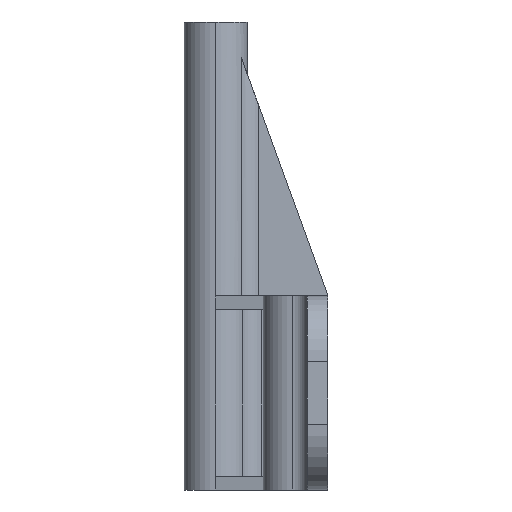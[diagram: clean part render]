
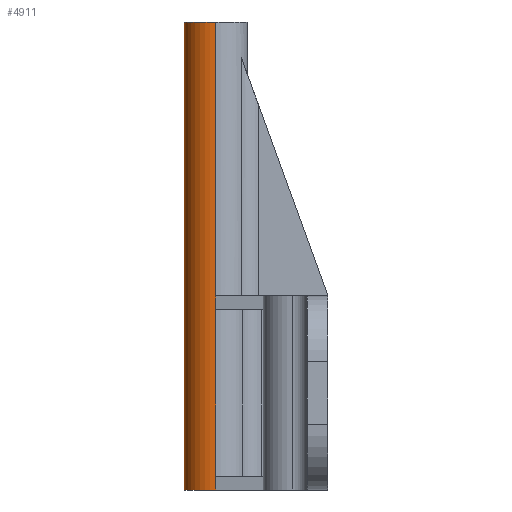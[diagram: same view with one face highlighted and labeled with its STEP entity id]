
A CAD part, left-side view. The second image highlights one B-rep face of the part: STEP entity #4911.
In plain terms, the highlighted cylindrical face has radius 7.366 mm (diameter 14.732 mm), a partial arc.
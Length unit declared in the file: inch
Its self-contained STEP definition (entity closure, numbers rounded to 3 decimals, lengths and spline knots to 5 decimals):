
#5 = LINE ( 'NONE', #4402, #4881 ) ;
#95 = DIRECTION ( 'NONE',  ( 0., 0., 1. ) ) ;
#137 = VERTEX_POINT ( 'NONE', #5668 ) ;
#142 = VERTEX_POINT ( 'NONE', #3291 ) ;
#219 = ORIENTED_EDGE ( 'NONE', *, *, #5769, .T. ) ;
#263 = EDGE_CURVE ( 'NONE', #3427, #3368, #926, .T. ) ;
#501 = DIRECTION ( 'NONE',  ( 0., 0., -1. ) ) ;
#583 = EDGE_CURVE ( 'NONE', #2844, #3368, #3069, .T. ) ;
#597 = AXIS2_PLACEMENT_3D ( 'NONE', #1650, #2600, #5434 ) ;
#660 = CARTESIAN_POINT ( 'NONE',  ( 0.29, 0.899, 1.64666 ) ) ;
#686 = LINE ( 'NONE', #3529, #4452 ) ;
#835 = EDGE_LOOP ( 'NONE', ( #5110, #1667, #5284, #219, #5764, #2184, #3469, #1028, #1737, #3310 ) ) ;
#922 = CARTESIAN_POINT ( 'NONE',  ( 0.29, 0.899, 1.77166 ) ) ;
#926 = LINE ( 'NONE', #660, #3568 ) ;
#1028 = ORIENTED_EDGE ( 'NONE', *, *, #3211, .F. ) ;
#1034 = CARTESIAN_POINT ( 'NONE',  ( -0.29, 0.899, 1.77166 ) ) ;
#1210 = EDGE_CURVE ( 'NONE', #2844, #5875, #1573, .T. ) ;
#1320 = EDGE_CURVE ( 'NONE', #5875, #142, #686, .T. ) ;
#1573 = CIRCLE ( 'NONE', #5310, 0.29 ) ;
#1620 = CARTESIAN_POINT ( 'NONE',  ( 0., 0.899, 4.27166 ) ) ;
#1640 = CARTESIAN_POINT ( 'NONE',  ( 0.29, 0.899, 1.64666 ) ) ;
#1646 = DIRECTION ( 'NONE',  ( 0., 0., 1. ) ) ;
#1650 = CARTESIAN_POINT ( 'NONE',  ( 0., 0.899, 1.77166 ) ) ;
#1656 = CARTESIAN_POINT ( 'NONE',  ( -0.29, 0.899, 4.27166 ) ) ;
#1661 = DIRECTION ( 'NONE',  ( 1., 0., 0. ) ) ;
#1667 = ORIENTED_EDGE ( 'NONE', *, *, #583, .T. ) ;
#1737 = ORIENTED_EDGE ( 'NONE', *, *, #1956, .T. ) ;
#1754 = AXIS2_PLACEMENT_3D ( 'NONE', #2936, #95, #3387 ) ;
#1956 = EDGE_CURVE ( 'NONE', #2237, #142, #5105, .T. ) ;
#2135 = LINE ( 'NONE', #4686, #5785 ) ;
#2184 = ORIENTED_EDGE ( 'NONE', *, *, #4480, .T. ) ;
#2218 = VECTOR ( 'NONE', #4793, 39.37008 ) ;
#2237 = VERTEX_POINT ( 'NONE', #5234 ) ;
#2492 = CARTESIAN_POINT ( 'NONE',  ( -0.29, 0.899, 0.125 ) ) ;
#2599 = VECTOR ( 'NONE', #2800, 39.37008 ) ;
#2600 = DIRECTION ( 'NONE',  ( 0., 0., -1. ) ) ;
#2800 = DIRECTION ( 'NONE',  ( 0., 0., 1. ) ) ;
#2801 = DIRECTION ( 'NONE',  ( 0., 0., -1. ) ) ;
#2808 = CARTESIAN_POINT ( 'NONE',  ( -0.29, 0.899, 1.64666 ) ) ;
#2844 = VERTEX_POINT ( 'NONE', #5369 ) ;
#2936 = CARTESIAN_POINT ( 'NONE',  ( 0., 0.899, 0. ) ) ;
#3069 = LINE ( 'NONE', #922, #3349 ) ;
#3211 = EDGE_CURVE ( 'NONE', #2237, #137, #4525, .T. ) ;
#3291 = CARTESIAN_POINT ( 'NONE',  ( -0.29, 0.899, 1.77166 ) ) ;
#3310 = ORIENTED_EDGE ( 'NONE', *, *, #1320, .F. ) ;
#3349 = VECTOR ( 'NONE', #5158, 39.37008 ) ;
#3368 = VERTEX_POINT ( 'NONE', #5868 ) ;
#3387 = DIRECTION ( 'NONE',  ( 1., 0., 0. ) ) ;
#3427 = VERTEX_POINT ( 'NONE', #1640 ) ;
#3469 = ORIENTED_EDGE ( 'NONE', *, *, #3857, .F. ) ;
#3485 = VERTEX_POINT ( 'NONE', #5963 ) ;
#3500 = DIRECTION ( 'NONE',  ( 0., 0., -1. ) ) ;
#3515 = VERTEX_POINT ( 'NONE', #4093 ) ;
#3529 = CARTESIAN_POINT ( 'NONE',  ( -0.29, 0.899, 1.77166 ) ) ;
#3568 = VECTOR ( 'NONE', #3951, 39.37008 ) ;
#3616 = FACE_OUTER_BOUND ( 'NONE', #835, .T. ) ;
#3857 = EDGE_CURVE ( 'NONE', #137, #3515, #4901, .T. ) ;
#3951 = DIRECTION ( 'NONE',  ( 0., 0., 1. ) ) ;
#4093 = CARTESIAN_POINT ( 'NONE',  ( -0.29, 0.899, 0. ) ) ;
#4402 = CARTESIAN_POINT ( 'NONE',  ( 0.29, 0.899, 1.77166 ) ) ;
#4452 = VECTOR ( 'NONE', #3500, 39.37008 ) ;
#4480 = EDGE_CURVE ( 'NONE', #5294, #3515, #4815, .T. ) ;
#4525 = LINE ( 'NONE', #1034, #5488 ) ;
#4686 = CARTESIAN_POINT ( 'NONE',  ( 0.29, 0.899, 0.125 ) ) ;
#4743 = CYLINDRICAL_SURFACE ( 'NONE', #597, 0.29 ) ;
#4793 = DIRECTION ( 'NONE',  ( 0., 0., -1. ) ) ;
#4815 = CIRCLE ( 'NONE', #1754, 0.29 ) ;
#4881 = VECTOR ( 'NONE', #4885, 39.37008 ) ;
#4885 = DIRECTION ( 'NONE',  ( 0., 0., -1. ) ) ;
#4901 = LINE ( 'NONE', #2492, #2218 ) ;
#4911 = ADVANCED_FACE ( 'NONE', ( #3616 ), #4743, .T. ) ;
#5105 = LINE ( 'NONE', #2808, #2599 ) ;
#5110 = ORIENTED_EDGE ( 'NONE', *, *, #1210, .F. ) ;
#5118 = EDGE_CURVE ( 'NONE', #3485, #5294, #2135, .T. ) ;
#5158 = DIRECTION ( 'NONE',  ( 0., 0., -1. ) ) ;
#5234 = CARTESIAN_POINT ( 'NONE',  ( -0.29, 0.899, 1.64666 ) ) ;
#5284 = ORIENTED_EDGE ( 'NONE', *, *, #263, .F. ) ;
#5294 = VERTEX_POINT ( 'NONE', #5457 ) ;
#5310 = AXIS2_PLACEMENT_3D ( 'NONE', #1620, #1646, #1661 ) ;
#5369 = CARTESIAN_POINT ( 'NONE',  ( 0.29, 0.899, 4.27166 ) ) ;
#5434 = DIRECTION ( 'NONE',  ( -1., 0., 0. ) ) ;
#5457 = CARTESIAN_POINT ( 'NONE',  ( 0.29, 0.899, 0. ) ) ;
#5488 = VECTOR ( 'NONE', #501, 39.37008 ) ;
#5668 = CARTESIAN_POINT ( 'NONE',  ( -0.29, 0.899, 0.125 ) ) ;
#5764 = ORIENTED_EDGE ( 'NONE', *, *, #5118, .T. ) ;
#5769 = EDGE_CURVE ( 'NONE', #3427, #3485, #5, .T. ) ;
#5785 = VECTOR ( 'NONE', #2801, 39.37008 ) ;
#5868 = CARTESIAN_POINT ( 'NONE',  ( 0.29, 0.899, 1.77166 ) ) ;
#5875 = VERTEX_POINT ( 'NONE', #1656 ) ;
#5963 = CARTESIAN_POINT ( 'NONE',  ( 0.29, 0.899, 0.125 ) ) ;
